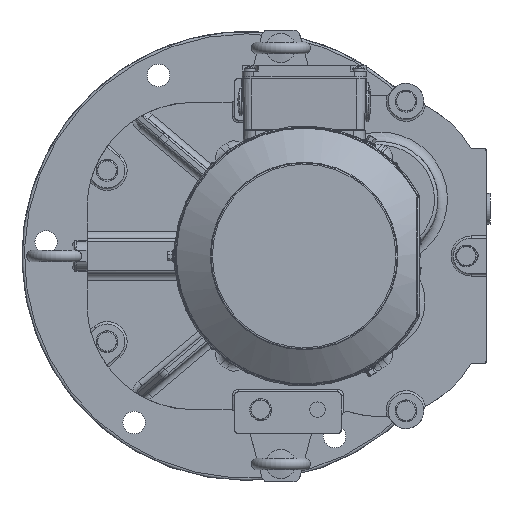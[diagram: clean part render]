
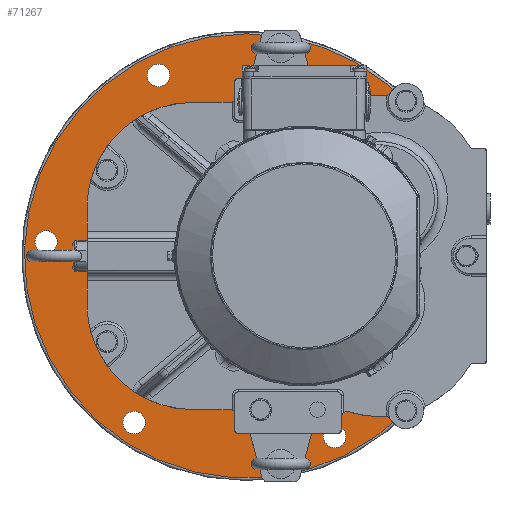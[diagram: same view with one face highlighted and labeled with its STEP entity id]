
A CAD part, left-side view. The second image highlights one B-rep face of the part: STEP entity #71267.
In plain terms, the highlighted planar face has unit normal (-1, 0, 0).
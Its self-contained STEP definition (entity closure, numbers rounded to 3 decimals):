
#845=FACE_BOUND('',#14730,.T.);
#846=FACE_BOUND('',#14731,.T.);
#847=FACE_BOUND('',#14732,.T.);
#848=FACE_BOUND('',#14733,.T.);
#849=FACE_BOUND('',#14734,.T.);
#850=FACE_BOUND('',#14735,.T.);
#6099=CIRCLE('',#78258,9.5);
#6100=CIRCLE('',#78260,9.5);
#6101=CIRCLE('',#78262,9.5);
#6102=CIRCLE('',#78264,9.5);
#6103=CIRCLE('',#78266,9.5);
#6104=CIRCLE('',#78268,9.5);
#6118=CIRCLE('',#78300,18.);
#6119=CIRCLE('',#78301,32.);
#6120=CIRCLE('',#78302,86.);
#6121=CIRCLE('',#78303,86.);
#6122=CIRCLE('',#78304,77.);
#6123=CIRCLE('',#78305,188.);
#10364=FACE_OUTER_BOUND('',#14729,.T.);
#14729=EDGE_LOOP('',(#61996,#61997,#61998,#61999,#62000,#62001,#62002,#62003,
#62004,#62005,#62006));
#14730=EDGE_LOOP('',(#62007));
#14731=EDGE_LOOP('',(#62008));
#14732=EDGE_LOOP('',(#62009));
#14733=EDGE_LOOP('',(#62010));
#14734=EDGE_LOOP('',(#62011));
#14735=EDGE_LOOP('',(#62012));
#20150=LINE('',#171339,#24530);
#20151=LINE('',#171343,#24531);
#20152=LINE('',#171347,#24532);
#20153=LINE('',#171351,#24533);
#20154=LINE('',#171355,#24534);
#24530=VECTOR('',#96128,10.);
#24531=VECTOR('',#96131,10.);
#24532=VECTOR('',#96134,10.);
#24533=VECTOR('',#96137,10.);
#24534=VECTOR('',#96140,10.);
#32384=VERTEX_POINT('',#171239);
#32385=VERTEX_POINT('',#171243);
#32386=VERTEX_POINT('',#171247);
#32387=VERTEX_POINT('',#171251);
#32388=VERTEX_POINT('',#171255);
#32389=VERTEX_POINT('',#171259);
#32414=VERTEX_POINT('',#171337);
#32415=VERTEX_POINT('',#171338);
#32416=VERTEX_POINT('',#171340);
#32417=VERTEX_POINT('',#171342);
#32418=VERTEX_POINT('',#171344);
#32419=VERTEX_POINT('',#171346);
#32420=VERTEX_POINT('',#171348);
#32421=VERTEX_POINT('',#171350);
#32422=VERTEX_POINT('',#171352);
#32423=VERTEX_POINT('',#171354);
#32424=VERTEX_POINT('',#171356);
#42331=EDGE_CURVE('',#32384,#32384,#6099,.T.);
#42333=EDGE_CURVE('',#32385,#32385,#6100,.T.);
#42335=EDGE_CURVE('',#32386,#32386,#6101,.T.);
#42337=EDGE_CURVE('',#32387,#32387,#6102,.T.);
#42339=EDGE_CURVE('',#32388,#32388,#6103,.T.);
#42341=EDGE_CURVE('',#32389,#32389,#6104,.T.);
#42375=EDGE_CURVE('',#32414,#32415,#20150,.T.);
#42376=EDGE_CURVE('',#32416,#32414,#6118,.T.);
#42377=EDGE_CURVE('',#32417,#32416,#20151,.T.);
#42378=EDGE_CURVE('',#32418,#32417,#6119,.T.);
#42379=EDGE_CURVE('',#32419,#32418,#20152,.T.);
#42380=EDGE_CURVE('',#32420,#32419,#6120,.T.);
#42381=EDGE_CURVE('',#32421,#32420,#20153,.T.);
#42382=EDGE_CURVE('',#32422,#32421,#6121,.T.);
#42383=EDGE_CURVE('',#32423,#32422,#20154,.T.);
#42384=EDGE_CURVE('',#32424,#32423,#6122,.T.);
#42385=EDGE_CURVE('',#32415,#32424,#6123,.T.);
#61996=ORIENTED_EDGE('',*,*,#42375,.F.);
#61997=ORIENTED_EDGE('',*,*,#42376,.F.);
#61998=ORIENTED_EDGE('',*,*,#42377,.F.);
#61999=ORIENTED_EDGE('',*,*,#42378,.F.);
#62000=ORIENTED_EDGE('',*,*,#42379,.F.);
#62001=ORIENTED_EDGE('',*,*,#42380,.F.);
#62002=ORIENTED_EDGE('',*,*,#42381,.F.);
#62003=ORIENTED_EDGE('',*,*,#42382,.F.);
#62004=ORIENTED_EDGE('',*,*,#42383,.F.);
#62005=ORIENTED_EDGE('',*,*,#42384,.F.);
#62006=ORIENTED_EDGE('',*,*,#42385,.F.);
#62007=ORIENTED_EDGE('',*,*,#42331,.T.);
#62008=ORIENTED_EDGE('',*,*,#42333,.T.);
#62009=ORIENTED_EDGE('',*,*,#42335,.T.);
#62010=ORIENTED_EDGE('',*,*,#42337,.T.);
#62011=ORIENTED_EDGE('',*,*,#42339,.T.);
#62012=ORIENTED_EDGE('',*,*,#42341,.T.);
#66548=PLANE('',#78299);
#71267=ADVANCED_FACE('',(#10364,#845,#846,#847,#848,#849,#850),#66548,.F.);
#78258=AXIS2_PLACEMENT_3D('',#171241,#96019,#96020);
#78260=AXIS2_PLACEMENT_3D('',#171245,#96024,#96025);
#78262=AXIS2_PLACEMENT_3D('',#171249,#96029,#96030);
#78264=AXIS2_PLACEMENT_3D('',#171253,#96034,#96035);
#78266=AXIS2_PLACEMENT_3D('',#171257,#96039,#96040);
#78268=AXIS2_PLACEMENT_3D('',#171261,#96044,#96045);
#78299=AXIS2_PLACEMENT_3D('',#171336,#96126,#96127);
#78300=AXIS2_PLACEMENT_3D('',#171341,#96129,#96130);
#78301=AXIS2_PLACEMENT_3D('',#171345,#96132,#96133);
#78302=AXIS2_PLACEMENT_3D('',#171349,#96135,#96136);
#78303=AXIS2_PLACEMENT_3D('',#171353,#96138,#96139);
#78304=AXIS2_PLACEMENT_3D('',#171357,#96141,#96142);
#78305=AXIS2_PLACEMENT_3D('',#171358,#96143,#96144);
#96019=DIRECTION('center_axis',(1.,0.,0.));
#96020=DIRECTION('ref_axis',(0.,0.,-1.));
#96024=DIRECTION('center_axis',(1.,0.,0.));
#96025=DIRECTION('ref_axis',(0.,0.866,-0.5));
#96029=DIRECTION('center_axis',(1.,0.,0.));
#96030=DIRECTION('ref_axis',(0.,0.866,0.5));
#96034=DIRECTION('center_axis',(1.,0.,0.));
#96035=DIRECTION('ref_axis',(0.,0.,1.));
#96039=DIRECTION('center_axis',(1.,0.,0.));
#96040=DIRECTION('ref_axis',(0.,-0.866,0.5));
#96044=DIRECTION('center_axis',(1.,0.,0.));
#96045=DIRECTION('ref_axis',(0.,-0.866,-0.5));
#96126=DIRECTION('center_axis',(1.,0.,0.));
#96127=DIRECTION('ref_axis',(0.,0.,-1.));
#96128=DIRECTION('',(0.,-0.94,0.342));
#96129=DIRECTION('center_axis',(1.,0.,0.));
#96130=DIRECTION('ref_axis',(0.,0.819,0.574));
#96131=DIRECTION('',(0.,0.,1.));
#96132=DIRECTION('center_axis',(-1.,0.,0.));
#96133=DIRECTION('ref_axis',(0.,-0.707,-0.707));
#96134=DIRECTION('',(0.,-1.,0.));
#96135=DIRECTION('center_axis',(-1.,0.,0.));
#96136=DIRECTION('ref_axis',(0.,0.707,-0.707));
#96137=DIRECTION('',(0.,0.,-1.));
#96138=DIRECTION('center_axis',(-1.,0.,0.));
#96139=DIRECTION('ref_axis',(0.,0.707,0.707));
#96140=DIRECTION('',(0.,1.,0.));
#96141=DIRECTION('center_axis',(-1.,0.,0.));
#96142=DIRECTION('ref_axis',(0.,-0.174,0.985));
#96143=DIRECTION('center_axis',(1.,0.,0.));
#96144=DIRECTION('ref_axis',(0.,0.927,-0.376));
#171239=CARTESIAN_POINT('',(147.,169.586,21.359));
#171241=CARTESIAN_POINT('Origin',(147.,169.586,11.859));
#171243=CARTESIAN_POINT('',(147.,66.296,157.545));
#171245=CARTESIAN_POINT('Origin',(147.,74.523,152.795));
#171247=CARTESIAN_POINT('',(147.,-103.29,136.186));
#171249=CARTESIAN_POINT('Origin',(147.,-95.063,140.936));
#171251=CARTESIAN_POINT('',(147.,-169.586,-21.359));
#171253=CARTESIAN_POINT('Origin',(147.,-169.586,-11.859));
#171255=CARTESIAN_POINT('',(147.,-66.296,-157.545));
#171257=CARTESIAN_POINT('Origin',(147.,-74.523,-152.795));
#171259=CARTESIAN_POINT('',(147.,103.29,-136.186));
#171261=CARTESIAN_POINT('Origin',(147.,95.063,-140.936));
#171336=CARTESIAN_POINT('Origin',(147.,0.,0.));
#171337=CARTESIAN_POINT('',(147.,-164.844,6.168));
#171338=CARTESIAN_POINT('',(147.,-187.448,14.395));
#171339=CARTESIAN_POINT('',(147.,-107.492,-14.706));
#171340=CARTESIAN_POINT('',(147.,-153.,-10.747));
#171341=CARTESIAN_POINT('Origin',(147.,-171.,-10.747));
#171342=CARTESIAN_POINT('',(147.,-153.,-94.));
#171343=CARTESIAN_POINT('',(147.,-153.,-5.373));
#171344=CARTESIAN_POINT('',(147.,-121.,-126.));
#171345=CARTESIAN_POINT('Origin',(147.,-121.,-94.));
#171346=CARTESIAN_POINT('',(147.,45.,-126.));
#171347=CARTESIAN_POINT('',(147.,-74.191,-126.));
#171348=CARTESIAN_POINT('',(147.,131.,-40.));
#171349=CARTESIAN_POINT('Origin',(147.,45.,-40.));
#171350=CARTESIAN_POINT('',(147.,131.,40.));
#171351=CARTESIAN_POINT('',(147.,131.,-20.));
#171352=CARTESIAN_POINT('',(147.,45.,126.));
#171353=CARTESIAN_POINT('Origin',(147.,45.,40.));
#171354=CARTESIAN_POINT('',(147.,-122.,126.));
#171355=CARTESIAN_POINT('',(147.,22.5,126.));
#171356=CARTESIAN_POINT('',(147.,-141.83,123.403));
#171357=CARTESIAN_POINT('Origin',(147.,-122.,49.));
#171358=CARTESIAN_POINT('Origin',(147.,0.,0.));
